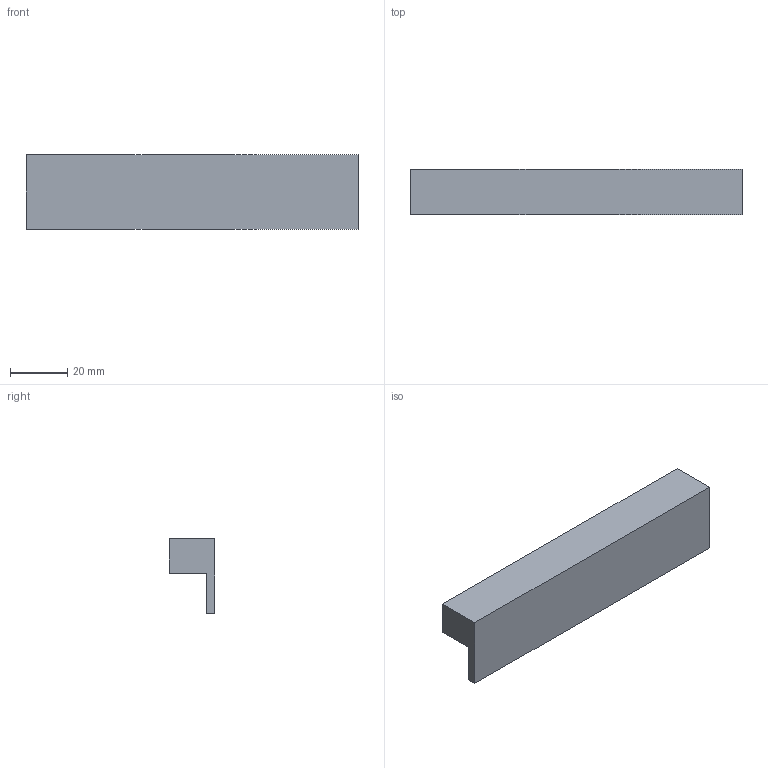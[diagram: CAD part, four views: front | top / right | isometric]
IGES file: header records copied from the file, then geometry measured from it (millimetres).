
Start section: Data from Parasolid IGES Translator 20.0.26, Copyright(c) 2006 Siemens P LM Software. All Rights Reserved.
Global section: file name: 9995439.igs; native system: By Siemens PLM Incorporated; preprocessor: XPlus GENERIC/IGES 20.0.26; author: Noname; organization: Noname; date: 20230220.165443; units: millimetre
Bounding box: 116 x 16 x 26 mm (x, y, z)
Surface area: 10463.3 mm2 (no closed solid volume)
Topology: 0 solids, 0 shells, 12 faces, 48 edges, 46 vertices
Faces by surface type: extrusion 10, revolution 2
